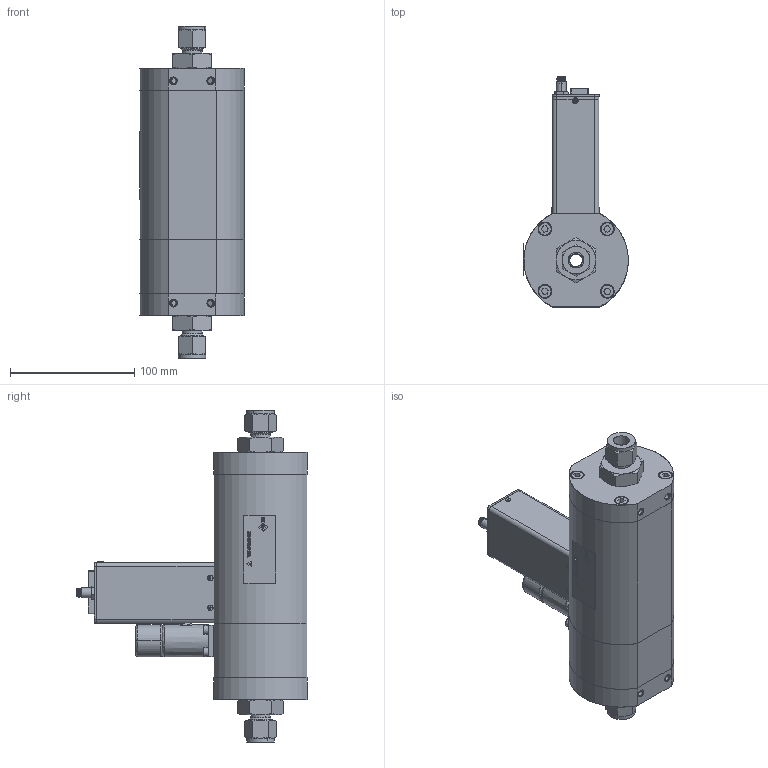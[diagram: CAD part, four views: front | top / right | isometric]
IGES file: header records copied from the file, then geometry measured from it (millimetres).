
Start section: SolidWorks IGES file using analytic representation for surfaces
Global section: file name: G:\Engineering\CAD MODELS FOR SALES\CAD MODEL STORAGE\SLA\SLA5853\IGES\SLA5853-8-2D-2-A-REVB.IGS; native system: SolidWorks 2020; preprocessor: SolidWorks 2020; author: SThen; date: 210625.082722; units: inch
Bounding box: 84.17 x 184.93 x 266.87 mm (x, y, z)
Surface area: 218732.7 mm2 (no closed solid volume)
Topology: 0 solids, 0 shells, 2524 faces, 25509 edges, 25433 vertices
Faces by surface type: bspline 1649, revolution 875
